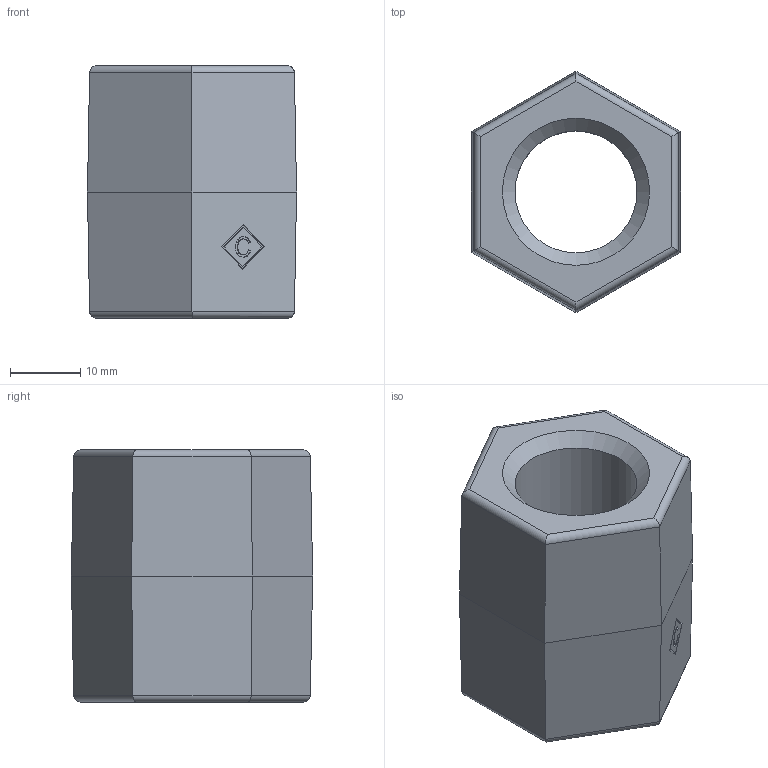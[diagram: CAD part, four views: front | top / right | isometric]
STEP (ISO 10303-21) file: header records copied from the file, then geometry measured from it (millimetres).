
FILE_DESCRIPTION((''),'2;1');
FILE_NAME('P:\Fastrack\53909_CRANE\Crane\Fig.176 Socket\New 0.50 inch\176-0.50.stp','2009-09-16T16:35:54',('btaylor'),(''),'Autodesk Inventor 2008','Autodesk Inventor 2008','');
FILE_SCHEMA(('AUTOMOTIVE_DESIGN { 1 0 10303 214 1 1 1 1 }'));
Length unit declared in the file: millimetre
Products named in the file (1): 176-0.50
Bounding box: 29.83 x 34.44 x 36 mm (x, y, z)
Volume: 18366.7 mm3; surface area: 6469.1 mm2
Topology: 1 solids, 1 shells, 50 faces, 115 edges, 70 vertices
Faces by surface type: plane 20, bspline 15, cylinder 13, cone 2
Full cylindrical faces by diameter (mm): 17.4 x1
Entity records: 1517 total; most frequent: CARTESIAN_POINT 426, ORIENTED_EDGE 224, DIRECTION 184, EDGE_CURVE 112, VECTOR 80, LINE 80, VERTEX_POINT 70, EDGE_LOOP 58
